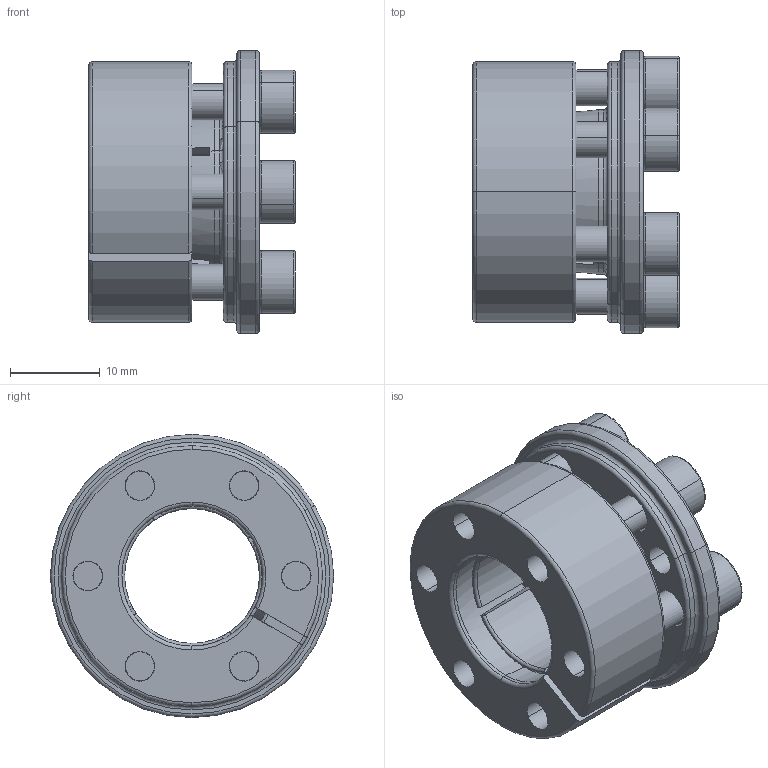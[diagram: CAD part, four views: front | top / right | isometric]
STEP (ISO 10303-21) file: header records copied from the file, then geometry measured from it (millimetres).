
FILE_DESCRIPTION (( 'STEP AP203' ), '1' );
FILE_NAME ('SAPL-A-15-29.STEP', '2013-07-22T05:19:41', ( 'MYCOM' ), ( '' ), 'SwSTEP 2.0', 'SolidWorks 2012', '' );
FILE_SCHEMA (( 'CONFIG_CONTROL_DESIGN' ));
Length unit declared in the file: millimetre
Products named in the file (1): SAPL-A-15-29
Bounding box: 23 x 31.5 x 31.5 mm (x, y, z)
Volume: 8523.7 mm3; surface area: 6517.8 mm2
Topology: 1 solids, 1 shells, 288 faces, 715 edges, 428 vertices
Faces by surface type: plane 113, cylinder 78, torus 68, cone 29
Entity records: 8783 total; most frequent: CARTESIAN_POINT 1690, DIRECTION 1604, ORIENTED_EDGE 1406, EDGE_CURVE 703, AXIS2_PLACEMENT_3D 662, VERTEX_POINT 428, CIRCLE 373, EDGE_LOOP 325
